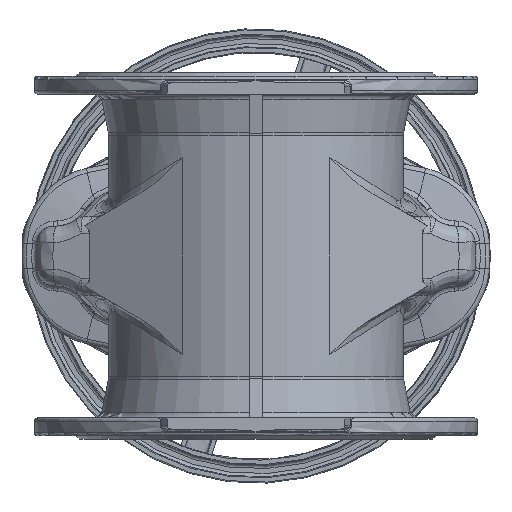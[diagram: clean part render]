
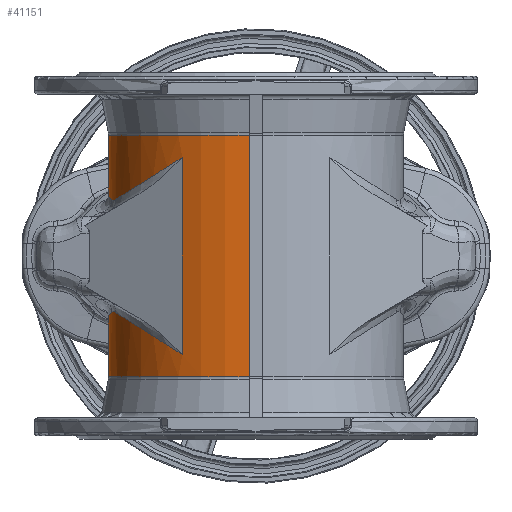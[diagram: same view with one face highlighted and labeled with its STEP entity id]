
A CAD part, front view. The second image highlights one B-rep face of the part: STEP entity #41151.
In plain terms, the highlighted cylindrical face has radius 133 mm (diameter 266 mm), a partial arc.
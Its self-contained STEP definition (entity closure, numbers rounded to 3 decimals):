
#104 = CARTESIAN_POINT ( 'NONE',  ( -116.496, -72.376, 57.259 ) ) ;
#112 = CARTESIAN_POINT ( 'NONE',  ( -126.687, -40.488, 50.844 ) ) ;
#114 = CARTESIAN_POINT ( 'NONE',  ( -129.44, -30.633, 50.544 ) ) ;
#116 = CARTESIAN_POINT ( 'NONE',  ( -95.492, -98.443, 70.48 ) ) ;
#117 = CARTESIAN_POINT ( 'NONE',  ( -66.5, -115.181, 88.729 ) ) ;
#122 = CARTESIAN_POINT ( 'NONE',  ( -129.881, -28.633, 50.842 ) ) ;
#126 = CARTESIAN_POINT ( 'NONE',  ( -128.954, -32.622, 50.363 ) ) ;
#127 = CARTESIAN_POINT ( 'NONE',  ( -128.155, -35.585, 50.33 ) ) ;
#128 = CARTESIAN_POINT ( 'NONE',  ( -127.878, -36.57, 50.359 ) ) ;
#129 = CARTESIAN_POINT ( 'NONE',  ( -127.3, -38.534, 50.518 ) ) ;
#130 = CARTESIAN_POINT ( 'NONE',  ( -126.999, -39.513, 50.648 ) ) ;
#131 = CARTESIAN_POINT ( 'NONE',  ( -126.687, -40.488, 50.844 ) ) ;
#279 = CARTESIAN_POINT ( 'NONE',  ( 0., 0., 108.833 ) ) ;
#280 = DIRECTION ( 'NONE',  ( 0., 0., -1. ) ) ;
#281 = DIRECTION ( 'NONE',  ( 0., -1., 0. ) ) ;
#464 = CARTESIAN_POINT ( 'NONE',  ( -6., 132.865, 0. ) ) ;
#465 = DIRECTION ( 'NONE',  ( 0., 0., -1. ) ) ;
#538 = CARTESIAN_POINT ( 'NONE',  ( -66.5, -115.181, 0. ) ) ;
#578 = DIRECTION ( 'NONE',  ( 0., 0., -1. ) ) ;
#596 = CARTESIAN_POINT ( 'NONE',  ( -6., 132.865, 77.968 ) ) ;
#600 = CARTESIAN_POINT ( 'NONE',  ( -94.883, 128.851, 75.645 ) ) ;
#601 = CARTESIAN_POINT ( 'NONE',  ( -149.036, 58.255, 63.787 ) ) ;
#602 = CARTESIAN_POINT ( 'NONE',  ( -129.881, -28.633, 50.842 ) ) ;
#612 = CARTESIAN_POINT ( 'NONE',  ( -126.687, -40.488, -50.844 ) ) ;
#620 = CARTESIAN_POINT ( 'NONE',  ( -116.496, -72.376, -57.259 ) ) ;
#621 = CARTESIAN_POINT ( 'NONE',  ( -95.492, -98.443, -70.48 ) ) ;
#622 = CARTESIAN_POINT ( 'NONE',  ( -66.5, -115.181, -88.729 ) ) ;
#658 = CARTESIAN_POINT ( 'NONE',  ( -6., -132.865, 0. ) ) ;
#661 = DIRECTION ( 'NONE',  ( 0., 0., 1. ) ) ;
#720 = CARTESIAN_POINT ( 'NONE',  ( 0., 0., -108.833 ) ) ;
#721 = DIRECTION ( 'NONE',  ( 0., 0., -1. ) ) ;
#722 = DIRECTION ( 'NONE',  ( 0., -1., 0. ) ) ;
#735 = CARTESIAN_POINT ( 'NONE',  ( -129.44, -30.633, -50.544 ) ) ;
#753 = CARTESIAN_POINT ( 'NONE',  ( -129.881, -28.633, -50.842 ) ) ;
#757 = CARTESIAN_POINT ( 'NONE',  ( -128.954, -32.622, -50.363 ) ) ;
#758 = CARTESIAN_POINT ( 'NONE',  ( -128.155, -35.585, -50.33 ) ) ;
#759 = CARTESIAN_POINT ( 'NONE',  ( -127.878, -36.57, -50.359 ) ) ;
#760 = CARTESIAN_POINT ( 'NONE',  ( -127.3, -38.534, -50.518 ) ) ;
#761 = CARTESIAN_POINT ( 'NONE',  ( -126.999, -39.513, -50.648 ) ) ;
#762 = CARTESIAN_POINT ( 'NONE',  ( -126.687, -40.488, -50.844 ) ) ;
#1854 = AXIS2_PLACEMENT_3D ( 'NONE', #279, #280, #281 ) ;
#1935 = AXIS2_PLACEMENT_3D ( 'NONE', #720, #721, #722 ) ;
#15463 = CARTESIAN_POINT ( 'NONE',  ( -129.881, -28.633, 50.842 ) ) ;
#15468 = CARTESIAN_POINT ( 'NONE',  ( -6., 132.865, 108.833 ) ) ;
#15492 = CARTESIAN_POINT ( 'NONE',  ( -126.687, -40.488, 50.844 ) ) ;
#15503 = CARTESIAN_POINT ( 'NONE',  ( -6., 132.865, -108.833 ) ) ;
#15504 = CARTESIAN_POINT ( 'NONE',  ( -6., -132.865, 108.833 ) ) ;
#15506 = CARTESIAN_POINT ( 'NONE',  ( -6., 132.865, 77.968 ) ) ;
#15514 = CARTESIAN_POINT ( 'NONE',  ( -66.5, -115.181, -88.729 ) ) ;
#15517 = CARTESIAN_POINT ( 'NONE',  ( -66.5, -115.181, 88.729 ) ) ;
#15519 = CARTESIAN_POINT ( 'NONE',  ( -126.687, -40.488, -50.844 ) ) ;
#15525 = CARTESIAN_POINT ( 'NONE',  ( -129.881, -28.633, -50.842 ) ) ;
#15526 = CARTESIAN_POINT ( 'NONE',  ( -6., 132.865, -77.968 ) ) ;
#15536 = CARTESIAN_POINT ( 'NONE',  ( -6., -132.865, -108.833 ) ) ;
#17538 =( BOUNDED_CURVE ( )  B_SPLINE_CURVE ( 3, ( #612, #620, #621, #622 ),
 .UNSPECIFIED., .F., .F. ) 
 B_SPLINE_CURVE_WITH_KNOTS ( ( 4, 4 ),
 ( 3.451, 4.189 ),
 .UNSPECIFIED. ) 
 CURVE ( )  GEOMETRIC_REPRESENTATION_ITEM ( )  RATIONAL_B_SPLINE_CURVE ( ( 1., 0.955, 0.955, 1. ) ) 
 REPRESENTATION_ITEM ( '' )  );
#17588 =( BOUNDED_CURVE ( )  B_SPLINE_CURVE ( 3, ( #596, #600, #601, #602 ),
 .UNSPECIFIED., .F., .F. ) 
 B_SPLINE_CURVE_WITH_KNOTS ( ( 4, 4 ),
 ( 0.17, 1.913 ),
 .UNSPECIFIED. ) 
 CURVE ( )  GEOMETRIC_REPRESENTATION_ITEM ( )  RATIONAL_B_SPLINE_CURVE ( ( 1., 0.763, 0.763, 1. ) ) 
 REPRESENTATION_ITEM ( '' )  );
#17620 =( BOUNDED_CURVE ( )  B_SPLINE_CURVE ( 3, ( #19592, #19608, #19615, #19616 ),
 .UNSPECIFIED., .F., .F. ) 
 B_SPLINE_CURVE_WITH_KNOTS ( ( 4, 4 ),
 ( 0.17, 1.913 ),
 .UNSPECIFIED. ) 
 CURVE ( )  GEOMETRIC_REPRESENTATION_ITEM ( )  RATIONAL_B_SPLINE_CURVE ( ( 1., 0.763, 0.763, 1. ) ) 
 REPRESENTATION_ITEM ( '' )  );
#18090 = B_SPLINE_CURVE_WITH_KNOTS ( 'NONE', 3,
 ( #753, #735, #757, #758, #759, #760, #761, #762 ),
 .UNSPECIFIED., .F., .F.,
 ( 4, 2, 2, 4 ),
 ( 0., 0.006, 0.009, 0.012 ),
 .UNSPECIFIED. ) ;
#18237 = B_SPLINE_CURVE_WITH_KNOTS ( 'NONE', 3,
 ( #122, #114, #126, #127, #128, #129, #130, #131 ),
 .UNSPECIFIED., .F., .F.,
 ( 4, 2, 2, 4 ),
 ( 0., 0.006, 0.009, 0.012 ),
 .UNSPECIFIED. ) ;
#18300 =( BOUNDED_CURVE ( )  B_SPLINE_CURVE ( 3, ( #112, #104, #116, #117 ),
 .UNSPECIFIED., .F., .T. ) 
 B_SPLINE_CURVE_WITH_KNOTS ( ( 4, 4 ),
 ( 3.451, 4.189 ),
 .UNSPECIFIED. ) 
 CURVE ( )  GEOMETRIC_REPRESENTATION_ITEM ( )  RATIONAL_B_SPLINE_CURVE ( ( 1., 0.955, 0.955, 1. ) ) 
 REPRESENTATION_ITEM ( '' )  );
#19592 = CARTESIAN_POINT ( 'NONE',  ( -6., 132.865, -77.968 ) ) ;
#19608 = CARTESIAN_POINT ( 'NONE',  ( -94.883, 128.851, -75.645 ) ) ;
#19611 = CARTESIAN_POINT ( 'NONE',  ( -6., 132.865, 0. ) ) ;
#19612 = DIRECTION ( 'NONE',  ( 0., 0., 1. ) ) ;
#19615 = CARTESIAN_POINT ( 'NONE',  ( -149.036, 58.255, -63.787 ) ) ;
#19616 = CARTESIAN_POINT ( 'NONE',  ( -129.881, -28.633, -50.842 ) ) ;
#23386 = CYLINDRICAL_SURFACE ( 'NONE', #28675, 133. ) ;
#23396 = FACE_OUTER_BOUND ( 'NONE', #38715, .T. ) ;
#25202 = ORIENTED_EDGE ( 'NONE', *, *, #38173, .F. ) ;
#25203 = ORIENTED_EDGE ( 'NONE', *, *, #37994, .T. ) ;
#25204 = ORIENTED_EDGE ( 'NONE', *, *, #38171, .F. ) ;
#25205 = ORIENTED_EDGE ( 'NONE', *, *, #38061, .T. ) ;
#25206 = ORIENTED_EDGE ( 'NONE', *, *, #37970, .T. ) ;
#25223 = ORIENTED_EDGE ( 'NONE', *, *, #38034, .T. ) ;
#25224 = ORIENTED_EDGE ( 'NONE', *, *, #38075, .T. ) ;
#25226 = ORIENTED_EDGE ( 'NONE', *, *, #37967, .T. ) ;
#25237 = ORIENTED_EDGE ( 'NONE', *, *, #38096, .F. ) ;
#25238 = ORIENTED_EDGE ( 'NONE', *, *, #38057, .T. ) ;
#25449 = ORIENTED_EDGE ( 'NONE', *, *, #38067, .F. ) ;
#25458 = ORIENTED_EDGE ( 'NONE', *, *, #38085, .F. ) ;
#26726 = CIRCLE ( 'NONE', #1854, 133. ) ;
#26755 = LINE ( 'NONE', #464, #26757 ) ;
#26757 = VECTOR ( 'NONE', #465, 1000. ) ;
#26770 = LINE ( 'NONE', #538, #26776 ) ;
#26776 = VECTOR ( 'NONE', #578, 1000. ) ;
#26786 = LINE ( 'NONE', #658, #26790 ) ;
#26790 = VECTOR ( 'NONE', #661, 1000. ) ;
#26796 = CIRCLE ( 'NONE', #1935, 133. ) ;
#26878 = LINE ( 'NONE', #19611, #26879 ) ;
#26879 = VECTOR ( 'NONE', #19612, 1000. ) ;
#28675 = AXIS2_PLACEMENT_3D ( 'NONE', #47262, #47260, #47255 ) ;
#37967 = EDGE_CURVE ( 'NONE', #45971, #45996, #18300, .T. ) ;
#37970 = EDGE_CURVE ( 'NONE', #45942, #45971, #18237, .T. ) ;
#37994 = EDGE_CURVE ( 'NONE', #45983, #45947, #26726, .T. ) ;
#38034 = EDGE_CURVE ( 'NONE', #46005, #45982, #26755, .T. ) ;
#38057 = EDGE_CURVE ( 'NONE', #45996, #45993, #26770, .T. ) ;
#38061 = EDGE_CURVE ( 'NONE', #45985, #45942, #17588, .T. ) ;
#38067 = EDGE_CURVE ( 'NONE', #45998, #45993, #17538, .T. ) ;
#38075 = EDGE_CURVE ( 'NONE', #46015, #45983, #26786, .T. ) ;
#38085 = EDGE_CURVE ( 'NONE', #46015, #45982, #26796, .T. ) ;
#38096 = EDGE_CURVE ( 'NONE', #46004, #45998, #18090, .T. ) ;
#38171 = EDGE_CURVE ( 'NONE', #45985, #45947, #26878, .T. ) ;
#38173 = EDGE_CURVE ( 'NONE', #46005, #46004, #17620, .T. ) ;
#38715 = EDGE_LOOP ( 'NONE', ( #25238, #25449, #25237, #25202, #25223, #25458, #25224, #25203, #25204, #25205, #25206, #25226 ) ) ;
#41151 = ADVANCED_FACE ( 'NONE', ( #23396 ), #23386, .T. ) ;
#45942 = VERTEX_POINT ( 'NONE', #15463 ) ;
#45947 = VERTEX_POINT ( 'NONE', #15468 ) ;
#45971 = VERTEX_POINT ( 'NONE', #15492 ) ;
#45982 = VERTEX_POINT ( 'NONE', #15503 ) ;
#45983 = VERTEX_POINT ( 'NONE', #15504 ) ;
#45985 = VERTEX_POINT ( 'NONE', #15506 ) ;
#45993 = VERTEX_POINT ( 'NONE', #15514 ) ;
#45996 = VERTEX_POINT ( 'NONE', #15517 ) ;
#45998 = VERTEX_POINT ( 'NONE', #15519 ) ;
#46004 = VERTEX_POINT ( 'NONE', #15525 ) ;
#46005 = VERTEX_POINT ( 'NONE', #15526 ) ;
#46015 = VERTEX_POINT ( 'NONE', #15536 ) ;
#47255 = DIRECTION ( 'NONE',  ( 0., -1., 0. ) ) ;
#47260 = DIRECTION ( 'NONE',  ( 0., 0., 1. ) ) ;
#47262 = CARTESIAN_POINT ( 'NONE',  ( 0., 0., 0. ) ) ;
